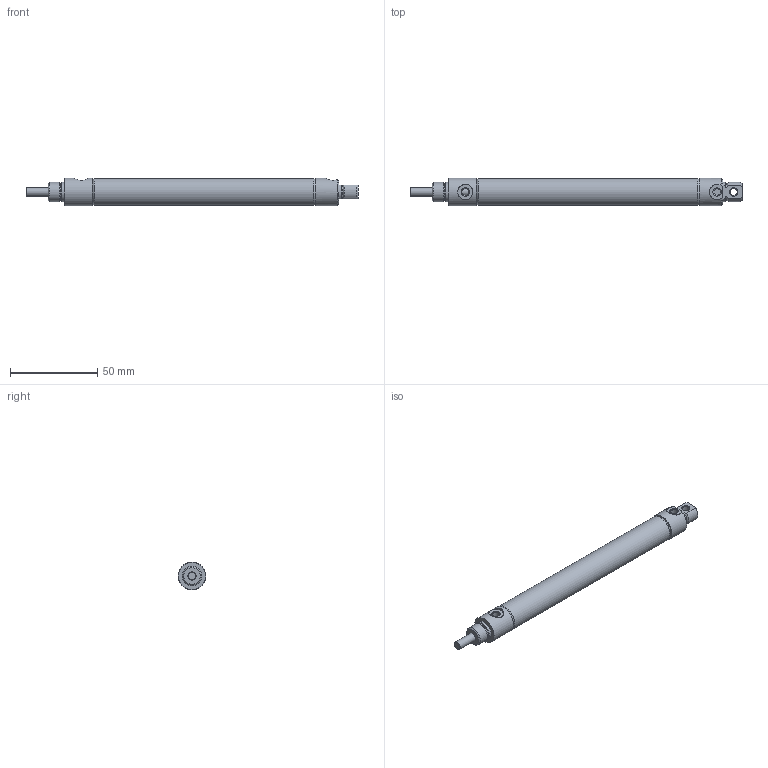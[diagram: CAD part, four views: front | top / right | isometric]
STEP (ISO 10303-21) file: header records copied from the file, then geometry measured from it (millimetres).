
FILE_DESCRIPTION( ( 'STEP AP214' ), '1' );
FILE_NAME( 'p:/temp/worker_448/temp/exporttempdir_4388_84_e12AY/format_0/0563D02-04A-03.stp', '2020-05-07T14:20:21', ( 'License CC BY-ND 4.0' ), ( 'CADENAS' ), ' ', 'PARTsolutions', ' ' );
FILE_SCHEMA( ( 'AUTOMOTIVE_DESIGN { 1 0 10303 214 1 1 1 1 }' ) );
Length unit declared in the file: inch
Products named in the file (3): 0563D02-04A-03; _0563D02-04A-0300A00A0b; _0563D02-04A-0300A00A0r
Assembly tree (2 placements, depth 2):
  0563D02-04A-03
    _0563D02-04A-0300A00A0b
    _0563D02-04A-0300A00A0r
Bounding box: 190.53 x 15.88 x 15.88 mm (x, y, z)
Volume: 16728.2 mm3; surface area: 18910.8 mm2
Topology: 2 solids, 2 shells, 58 faces, 120 edges, 77 vertices
Faces by surface type: cylinder 22, plane 22, cone 14
Full cylindrical faces by diameter (mm): 3.967 x2, 3.988 x1, 4.775 x2, 4.826 x1, 8.738 x1, 9.601 x1, 11.1 x2, 14.287 x2, 15.392 x1, 15.875 x2
Entity records: 2087 total; most frequent: CARTESIAN_POINT 422, DIRECTION 253, ORIENTED_EDGE 186, AXIS2_PLACEMENT_3D 115, EDGE_LOOP 97, EDGE_CURVE 93, VERTEX_POINT 74, FACE_OUTER_BOUND 73
